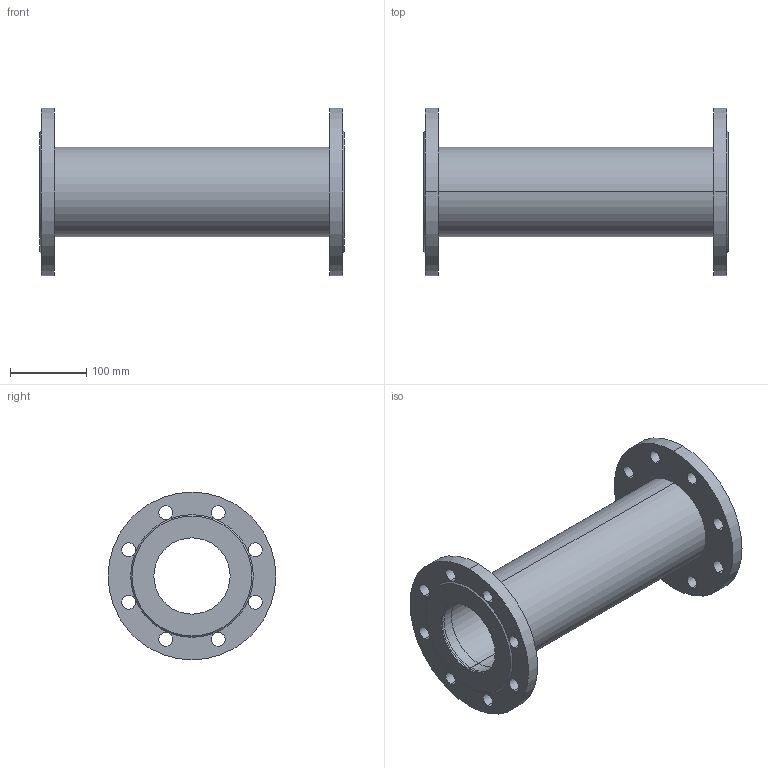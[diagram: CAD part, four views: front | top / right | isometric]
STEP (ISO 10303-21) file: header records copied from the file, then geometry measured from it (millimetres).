
FILE_DESCRIPTION(('STEP AP214'),'1');
FILE_NAME('U:/VDI-Daten/8500/8500_PN16_DN100_L400.STP','2012-06-12T15:02:09',(' '),(' '),'Spatial InterOp 3D',' ',' ');
FILE_SCHEMA(('automotive_design'));
Length unit declared in the file: millimetre
Products named in the file (5): 3D-Objekt
Bounding box: 400 x 220 x 220 mm (x, y, z)
Volume: 2206153.1 mm3; surface area: 487419.5 mm2
Topology: 5 solids, 5 shells, 62 faces, 156 edges, 104 vertices
Faces by surface type: cylinder 48, plane 10, cone 4
Entity records: 2621 total; most frequent: DIRECTION 394, CARTESIAN_POINT 327, ORIENTED_EDGE 312, AXIS2_PLACEMENT_3D 171, EDGE_CURVE 156, EDGE_LOOP 104, VERTEX_POINT 104, CIRCLE 104
